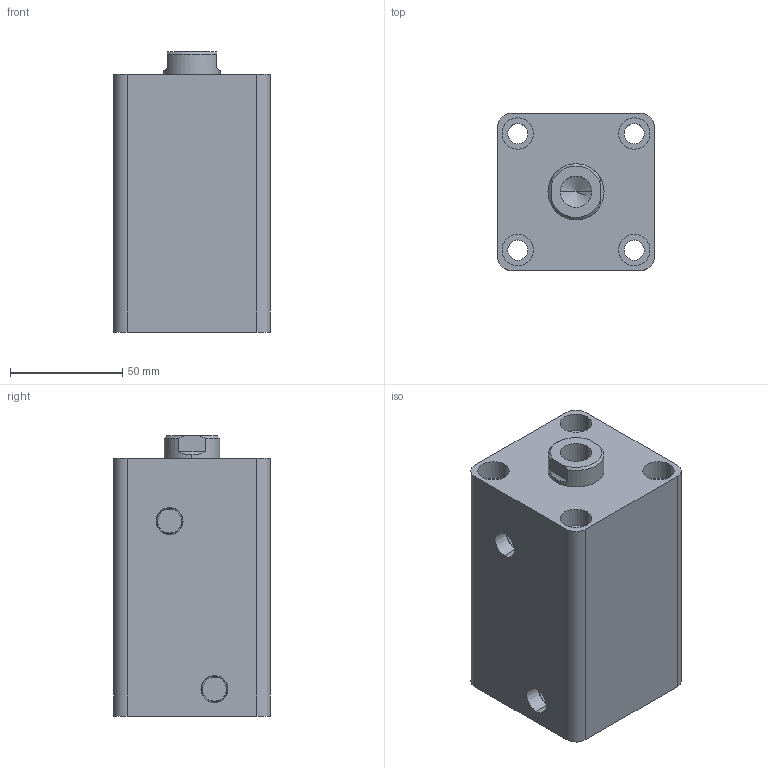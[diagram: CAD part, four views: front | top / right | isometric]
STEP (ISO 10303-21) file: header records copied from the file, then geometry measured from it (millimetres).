
FILE_DESCRIPTION (( 'STEP AP203' ), '1' );
FILE_NAME ('HTB-SD40-60N.STEP', '2019-10-07T06:54:01', ( '微软用户' ), ( '微软中国' ), 'SwSTEP 2.0', 'SolidWorks 2012', '' );
FILE_SCHEMA (( 'CONFIG_CONTROL_DESIGN' ));
Length unit declared in the file: millimetre
Products named in the file (3): HTB-SD40-60掛极; HTB-SD40-60N活塞杆; HTB-SD40-60N
Assembly tree (2 placements, depth 2):
  HTB-SD40-60N
    HTB-SD40-60掛极
    HTB-SD40-60N活塞杆
Bounding box: 70 x 70 x 125 mm (x, y, z)
Volume: 477691 mm3; surface area: 81700.3 mm2
Topology: 2 solids, 2 shells, 81 faces, 180 edges, 117 vertices
Faces by surface type: cylinder 42, plane 27, cone 8, torus 4
Entity records: 2603 total; most frequent: DIRECTION 444, CARTESIAN_POINT 409, ORIENTED_EDGE 356, AXIS2_PLACEMENT_3D 188, EDGE_CURVE 178, VERTEX_POINT 117, EDGE_LOOP 105, CIRCLE 102
